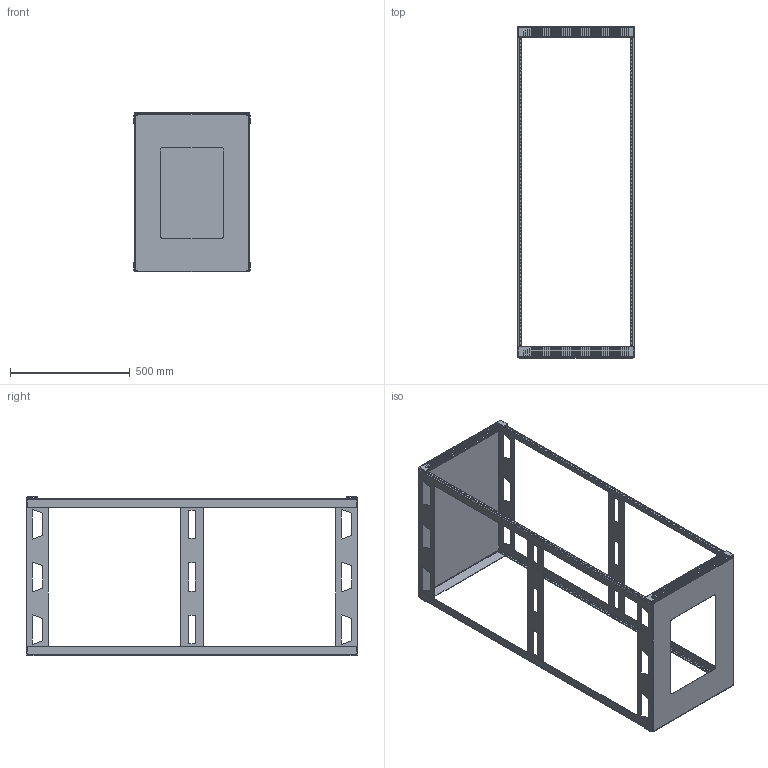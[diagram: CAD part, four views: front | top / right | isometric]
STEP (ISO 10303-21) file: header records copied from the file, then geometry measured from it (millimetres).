
FILE_DESCRIPTION((''),'2;1');
FILE_NAME('5-29-26_ASM','2016-05-09T',('rrenderos'),('Middle Atlantic Products'),'PRO/ENGINEER BY PARAMETRIC TECHNOLOGY CORPORATION, 2014310','PRO/ENGINEER BY PARAMETRIC TECHNOLOGY CORPORATION, 2014310','');
FILE_SCHEMA(('CONFIG_CONTROL_DESIGN'));
Length unit declared in the file: inch
Products named in the file (6): B5B26; CIBRRF31; B5T26; B5TR; PBRU26A1; 5-29-26_ASM
Assembly tree (10 placements, depth 2):
  5-29-26_ASM
    B5B26
    CIBRRF31  x4
    B5T26
    B5TR  x2
    PBRU26A1  x2
Bounding box: 485.77 x 1385.21 x 667.74 mm (x, y, z)
Volume: 2655242.4 mm3; surface area: 2524539.2 mm2
Topology: 10 solids, 10 shells, 1524 faces, 4384 edges, 2880 vertices
Faces by surface type: cylinder 1012, plane 512
Entity records: 22287 total; most frequent: DIRECTION 3878, CARTESIAN_POINT 3750, ORIENTED_EDGE 3724, EDGE_CURVE 1862, AXIS2_PLACEMENT_3D 1340, VERTEX_POINT 1212, VECTOR 1198, LINE 1198
